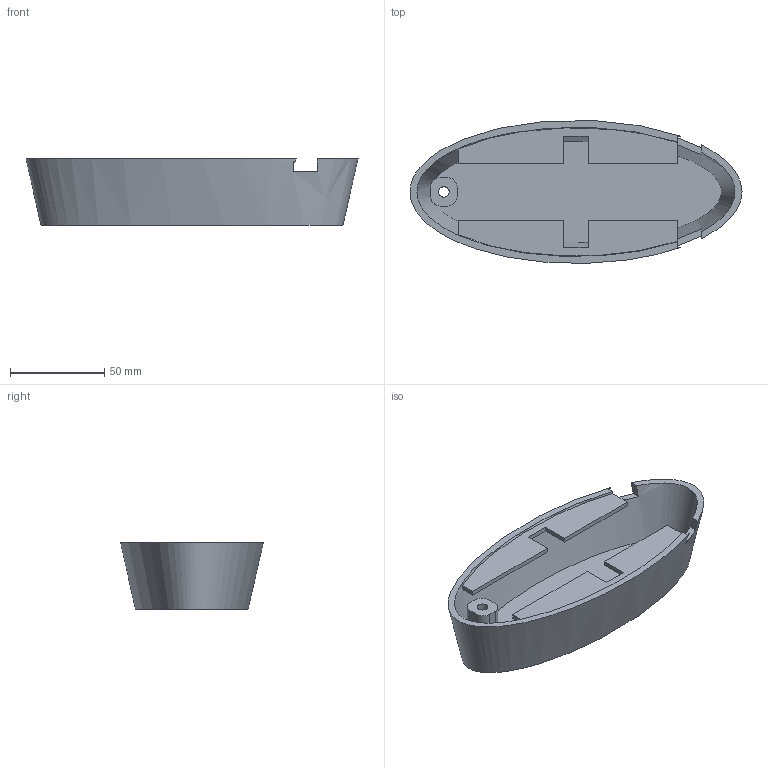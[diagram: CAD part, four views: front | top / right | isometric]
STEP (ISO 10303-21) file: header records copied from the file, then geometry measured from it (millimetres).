
FILE_DESCRIPTION(('Open CASCADE Model'),'2;1');
FILE_NAME('Open CASCADE Shape Model','2026-09-13T15:24:54',('Author'),( 'Open CASCADE'),'Open CASCADE STEP processor 7.9','build123d', 'Unknown');
FILE_SCHEMA(('AUTOMOTIVE_DESIGN { 1 0 10303 214 1 1 1 1 }'));
Length unit declared in the file: millimetre
Products named in the file (2): =>[0:1:1:2]; COMPOUND
Assembly tree (1 placements, depth 2):
  =>[0:1:1:2]
    COMPOUND
Bounding box: 175.97 x 75.69 x 35 mm (x, y, z)
Volume: 76728.5 mm3; surface area: 50112.8 mm2
Topology: 1 solids, 1 shells, 40 faces, 115 edges, 77 vertices
Faces by surface type: plane 33, cylinder 5, bspline 2
Full cylindrical faces by diameter (mm): 5.6 x1
Entity records: 5583 total; most frequent: CARTESIAN_POINT 3537, DIRECTION 288, ORIENTED_EDGE 230, PCURVE 230, DEFINITIONAL_REPRESENTATION 230, LINE 168, VECTOR 168, B_SPLINE_CURVE_WITH_KNOTS 145
